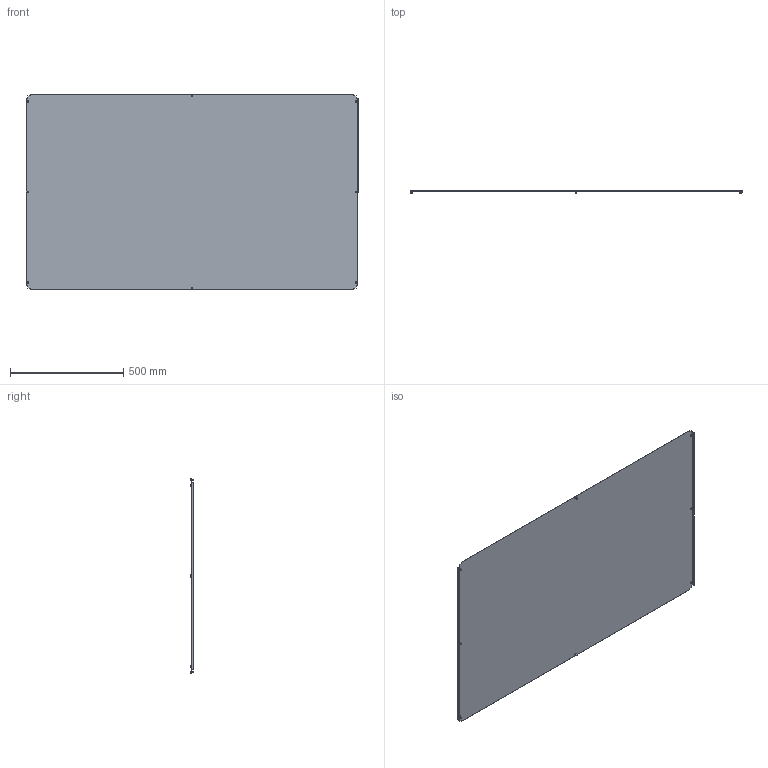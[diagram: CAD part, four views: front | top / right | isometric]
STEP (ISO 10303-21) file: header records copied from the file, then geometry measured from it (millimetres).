
FILE_DESCRIPTION (( 'STEP AP203' ), '1' );
FILE_NAME ('R5N1BP1610.STEP', '2025-02-21T14:04:22', ( '' ), ( '' ), 'SwSTEP 2.0', 'SolidWorks 2022', '' );
FILE_SCHEMA (( 'CONFIG_CONTROL_DESIGN' ));
Length unit declared in the file: millimetre
Products named in the file (3): RB.1923.00.00.0_-38; R5N1BP1610; M5x12 DIN 7500 C Torx Zinc_stright
Assembly tree (9 placements, depth 2):
  R5N1BP1610
    RB.1923.00.00.0_-38
    M5x12 DIN 7500 C Torx Zinc_stright  x8
Bounding box: 1468 x 15.56 x 862 mm (x, y, z)
Volume: 1918463.3 mm3; surface area: 2564127 mm2
Topology: 9 solids, 9 shells, 206 faces, 468 edges, 288 vertices
Faces by surface type: plane 126, cylinder 32, torus 16, cone 16, sphere 8, bspline 8
Full cylindrical faces by diameter (mm): 5 x8, 9.5 x8
Entity records: 3641 total; most frequent: CARTESIAN_POINT 724, DIRECTION 496, ORIENTED_EDGE 496, EDGE_CURVE 248, LINE 196, VECTOR 196, VERTEX_POINT 166, AXIS2_PLACEMENT_3D 150
